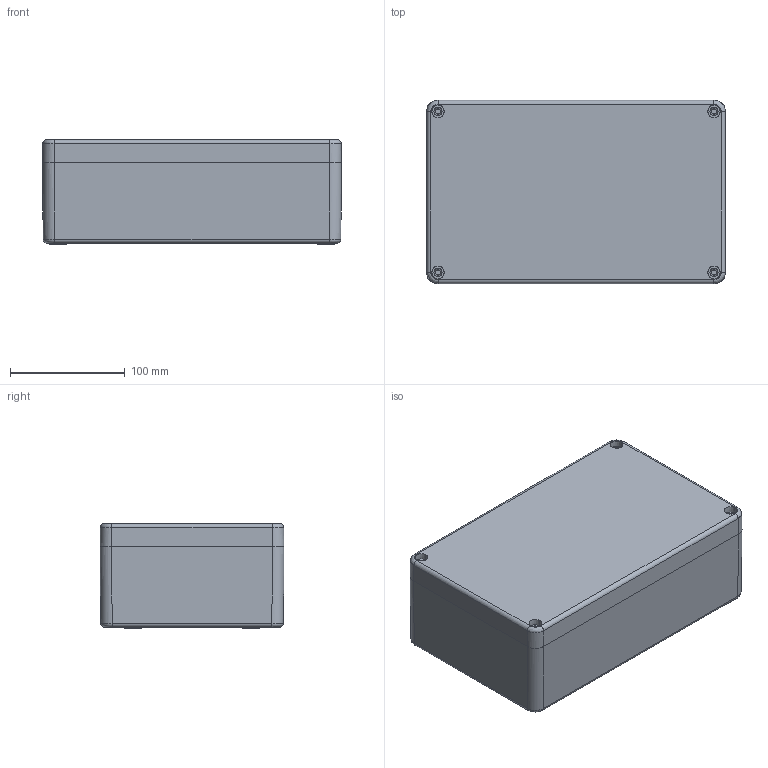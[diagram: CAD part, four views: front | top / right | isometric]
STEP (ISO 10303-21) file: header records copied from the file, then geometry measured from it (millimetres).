
FILE_DESCRIPTION (( 'STEP AP203' ), '1' );
FILE_NAME ('GRP ASSY 26016090.STEP', '2024-08-26T10:52:18', ( '' ), ( '' ), 'SwSTEP 2.0', 'SolidWorks 2018', '' );
FILE_SCHEMA (( 'CONFIG_CONTROL_DESIGN' ));
Length unit declared in the file: millimetre
Products named in the file (5): M6 SS TOP INSERT; GRP BASE 26016090; GRP ASSY 26016090; M6 BOTTOM INSERT; GRP LID 26016090
Assembly tree (12 placements, depth 2):
  GRP ASSY 26016090
    GRP BASE 26016090
    GRP LID 26016090
    M6 BOTTOM INSERT  x6
    M6 SS TOP INSERT  x4
Bounding box: 260 x 160 x 91 mm (x, y, z)
Volume: 962338.3 mm3; surface area: 323540.7 mm2
Topology: 12 solids, 12 shells, 1146 faces, 2772 edges, 1723 vertices
Faces by surface type: plane 449, cylinder 288, bspline 185, cone 184, torus 40
Entity records: 33125 total; most frequent: CARTESIAN_POINT 14101, ORIENTED_EDGE 3968, DIRECTION 3499, EDGE_CURVE 1984, VERTEX_POINT 1243, AXIS2_PLACEMENT_3D 1216, VECTOR 1067, LINE 1067
